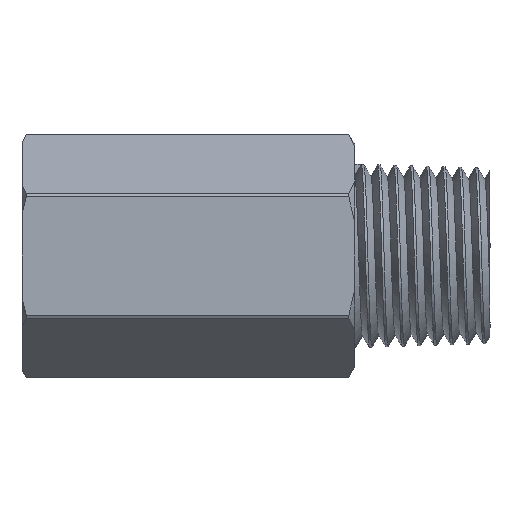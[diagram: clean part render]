
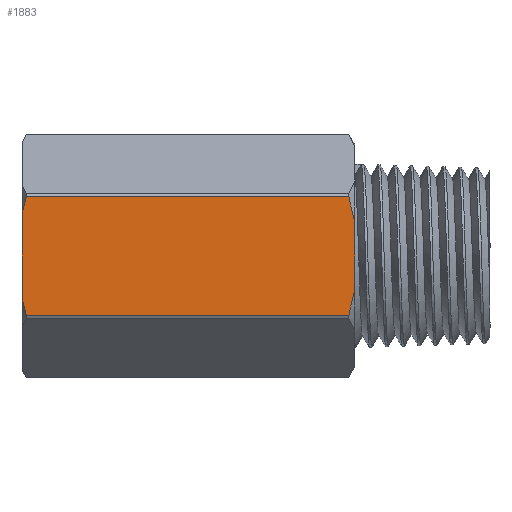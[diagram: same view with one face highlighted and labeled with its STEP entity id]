
A CAD part, front view. The second image highlights one B-rep face of the part: STEP entity #1883.
In plain terms, the highlighted planar face has unit normal (0, -1, 0).
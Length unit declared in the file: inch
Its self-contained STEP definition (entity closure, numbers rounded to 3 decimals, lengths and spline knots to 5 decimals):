
#29 = ORIENTED_EDGE ( 'NONE', *, *, #6614, .F. ) ;
#121 = ORIENTED_EDGE ( 'NONE', *, *, #6046, .T. ) ;
#147 = DIRECTION ( 'NONE',  ( 0., 0., 1. ) ) ;
#162 = DIRECTION ( 'NONE',  ( -1., 0., 0. ) ) ;
#283 = CARTESIAN_POINT ( 'NONE',  ( -1.08, -0.49125, -0.19426 ) ) ;
#331 = CARTESIAN_POINT ( 'NONE',  ( 0.42811, -0.49125, 0.27401 ) ) ;
#569 = DIRECTION ( 'NONE',  ( 0., 0., -1. ) ) ;
#724 = CARTESIAN_POINT ( 'NONE',  ( 0.4555, -0.49125, 0.15865 ) ) ;
#742 = CARTESIAN_POINT ( 'NONE',  ( -1.05946, -0.49125, -0.27401 ) ) ;
#788 = VECTOR ( 'NONE', #147, 39.37008 ) ;
#1003 = CARTESIAN_POINT ( 'NONE',  ( 0.43357, -0.49125, 0.25508 ) ) ;
#1088 = CARTESIAN_POINT ( 'NONE',  ( -1.05946, -0.49125, 0.27401 ) ) ;
#1091 = B_SPLINE_CURVE_WITH_KNOTS ( 'NONE', 3,
 ( #6667, #2490, #8807, #4608 ),
 .UNSPECIFIED., .F., .F.,
 ( 4, 4 ),
 ( 0.02066, 0.02367 ),
 .UNSPECIFIED. ) ;
#1143 = CARTESIAN_POINT ( 'NONE',  ( -1.08, -0.49125, 0.19426 ) ) ;
#1275 = CARTESIAN_POINT ( 'NONE',  ( 0.4555, -0.49125, 0. ) ) ;
#1350 = CARTESIAN_POINT ( 'NONE',  ( -1.05946, -0.49125, 0.27401 ) ) ;
#1681 = VERTEX_POINT ( 'NONE', #1088 ) ;
#1706 = CARTESIAN_POINT ( 'NONE',  ( 0.43864, -0.49125, 0.23601 ) ) ;
#1774 = EDGE_CURVE ( 'NONE', #1681, #3009, #3361, .T. ) ;
#1883 = ADVANCED_FACE ( 'NONE', ( #6139 ), #1882, .T. ) ;
#1882 = PLANE ( 'NONE',  #1990 ) ;
#1891 = EDGE_LOOP ( 'NONE', ( #3151, #5623, #7243, #2740, #5961, #2976, #29, #121 ) ) ;
#1930 = VECTOR ( 'NONE', #162, 39.37008 ) ;
#1990 = AXIS2_PLACEMENT_3D ( 'NONE', #7515, #4681, #569 ) ;
#2094 = CARTESIAN_POINT ( 'NONE',  ( -1.07407, -0.49125, -0.22114 ) ) ;
#2353 = EDGE_CURVE ( 'NONE', #6877, #7834, #2613, .T. ) ;
#2392 = CARTESIAN_POINT ( 'NONE',  ( 0.45197, -0.49125, 0.17807 ) ) ;
#2490 = CARTESIAN_POINT ( 'NONE',  ( 0.44838, -0.49125, -0.19779 ) ) ;
#2566 = VERTEX_POINT ( 'NONE', #4737 ) ;
#2589 = B_SPLINE_CURVE_WITH_KNOTS ( 'NONE', 3,
 ( #331, #1003, #1706, #6572, #2392, #7292 ),
 .UNSPECIFIED., .F., .F.,
 ( 4, 2, 4 ),
 ( 0.00956, 0.01105, 0.01255 ),
 .UNSPECIFIED. ) ;
#2613 = LINE ( 'NONE', #1275, #788 ) ;
#2740 = ORIENTED_EDGE ( 'NONE', *, *, #8493, .T. ) ;
#2908 = CARTESIAN_POINT ( 'NONE',  ( -1.66116, -0.49125, 0.27401 ) ) ;
#2921 = VECTOR ( 'NONE', #5738, 39.37008 ) ;
#2976 = ORIENTED_EDGE ( 'NONE', *, *, #2353, .T. ) ;
#3009 = VERTEX_POINT ( 'NONE', #7645 ) ;
#3045 = CARTESIAN_POINT ( 'NONE',  ( 0.42811, -0.49125, -0.27401 ) ) ;
#3151 = ORIENTED_EDGE ( 'NONE', *, *, #1774, .T. ) ;
#3361 = B_SPLINE_CURVE_WITH_KNOTS ( 'NONE', 3,
 ( #1350, #8537, #4959, #1143 ),
 .UNSPECIFIED., .F., .F.,
 ( 4, 4 ),
 ( 0.00957, 0.01165 ),
 .UNSPECIFIED. ) ;
#3557 = CARTESIAN_POINT ( 'NONE',  ( 0.42811, -0.49125, 0.27401 ) ) ;
#3722 = LINE ( 'NONE', #4753, #8867 ) ;
#3771 = EDGE_CURVE ( 'NONE', #7483, #2566, #6626, .T. ) ;
#3799 = LINE ( 'NONE', #2908, #1930 ) ;
#3970 = VERTEX_POINT ( 'NONE', #3045 ) ;
#4083 = CARTESIAN_POINT ( 'NONE',  ( 0.4555, -0.49125, -0.15865 ) ) ;
#4216 = CARTESIAN_POINT ( 'NONE',  ( -1.08, -0.49125, -0.19426 ) ) ;
#4335 = CARTESIAN_POINT ( 'NONE',  ( -1.08, -0.49125, 0. ) ) ;
#4608 = CARTESIAN_POINT ( 'NONE',  ( 0.42811, -0.49125, -0.27401 ) ) ;
#4681 = DIRECTION ( 'NONE',  ( 0., -1., 0. ) ) ;
#4737 = CARTESIAN_POINT ( 'NONE',  ( -1.05946, -0.49125, -0.27401 ) ) ;
#4753 = CARTESIAN_POINT ( 'NONE',  ( -1.66116, -0.49125, -0.27401 ) ) ;
#4776 = LINE ( 'NONE', #4335, #2921 ) ;
#4912 = CARTESIAN_POINT ( 'NONE',  ( -1.06715, -0.49125, -0.2477 ) ) ;
#4959 = CARTESIAN_POINT ( 'NONE',  ( -1.07406, -0.49125, 0.22118 ) ) ;
#5442 = DIRECTION ( 'NONE',  ( 1., 0., 0. ) ) ;
#5623 = ORIENTED_EDGE ( 'NONE', *, *, #6433, .T. ) ;
#5680 = EDGE_CURVE ( 'NONE', #6877, #3970, #1091, .T. ) ;
#5738 = DIRECTION ( 'NONE',  ( 0., 0., -1. ) ) ;
#5961 = ORIENTED_EDGE ( 'NONE', *, *, #5680, .F. ) ;
#6038 = VERTEX_POINT ( 'NONE', #3557 ) ;
#6046 = EDGE_CURVE ( 'NONE', #6038, #1681, #3799, .T. ) ;
#6139 = FACE_OUTER_BOUND ( 'NONE', #1891, .T. ) ;
#6433 = EDGE_CURVE ( 'NONE', #3009, #7483, #4776, .T. ) ;
#6572 = CARTESIAN_POINT ( 'NONE',  ( 0.44783, -0.49125, 0.19752 ) ) ;
#6614 = EDGE_CURVE ( 'NONE', #6038, #7834, #2589, .T. ) ;
#6626 = B_SPLINE_CURVE_WITH_KNOTS ( 'NONE', 3,
 ( #4216, #2094, #4912, #742 ),
 .UNSPECIFIED., .F., .F.,
 ( 4, 4 ),
 ( 0.02159, 0.02369 ),
 .UNSPECIFIED. ) ;
#6667 = CARTESIAN_POINT ( 'NONE',  ( 0.4555, -0.49125, -0.15865 ) ) ;
#6877 = VERTEX_POINT ( 'NONE', #4083 ) ;
#7243 = ORIENTED_EDGE ( 'NONE', *, *, #3771, .T. ) ;
#7292 = CARTESIAN_POINT ( 'NONE',  ( 0.4555, -0.49125, 0.15865 ) ) ;
#7483 = VERTEX_POINT ( 'NONE', #283 ) ;
#7515 = CARTESIAN_POINT ( 'NONE',  ( -1.08, -0.49125, 0.28362 ) ) ;
#7645 = CARTESIAN_POINT ( 'NONE',  ( -1.08, -0.49125, 0.19426 ) ) ;
#7834 = VERTEX_POINT ( 'NONE', #724 ) ;
#8493 = EDGE_CURVE ( 'NONE', #2566, #3970, #3722, .T. ) ;
#8537 = CARTESIAN_POINT ( 'NONE',  ( -1.06714, -0.49125, 0.24773 ) ) ;
#8807 = CARTESIAN_POINT ( 'NONE',  ( 0.43902, -0.49125, -0.23617 ) ) ;
#8867 = VECTOR ( 'NONE', #5442, 39.37008 ) ;
